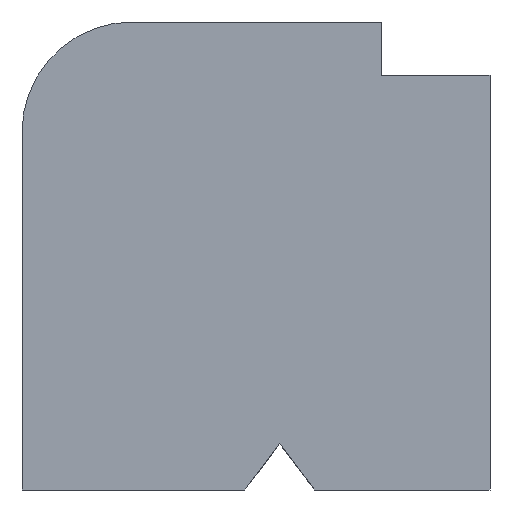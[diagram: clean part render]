
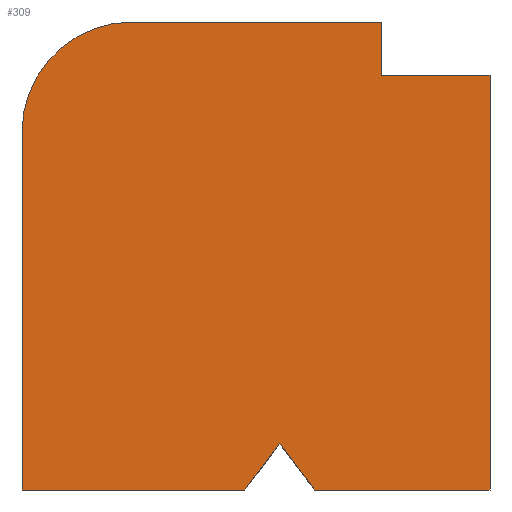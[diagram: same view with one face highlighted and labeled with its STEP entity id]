
A CAD part, front view. The second image highlights one B-rep face of the part: STEP entity #309.
In plain terms, the highlighted planar face has unit normal (0, -1, 0).
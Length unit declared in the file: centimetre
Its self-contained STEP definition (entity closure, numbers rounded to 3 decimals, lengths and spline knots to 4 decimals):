
#11 = CARTESIAN_POINT ( 'NONE',  ( 0., 0., 1000. ) ) ;
#12 = ORIENTED_EDGE ( 'NONE', *, *, #33, .T. ) ;
#18 = VERTEX_POINT ( 'NONE', #925 ) ;
#33 = EDGE_CURVE ( 'NONE', #777, #708, #668, .T. ) ;
#39 = CARTESIAN_POINT ( 'NONE',  ( 1000., 0., 1000. ) ) ;
#45 = DIRECTION ( 'NONE',  ( 0., 0., 1. ) ) ;
#97 = VERTEX_POINT ( 'NONE', #953 ) ;
#109 = ORIENTED_EDGE ( 'NONE', *, *, #954, .F. ) ;
#113 = DIRECTION ( 'NONE',  ( 0., 1., 0. ) ) ;
#122 = CARTESIAN_POINT ( 'NONE',  ( 0., 0., 0. ) ) ;
#142 = VERTEX_POINT ( 'NONE', #673 ) ;
#160 = CARTESIAN_POINT ( 'NONE',  ( 1000., 0., 0. ) ) ;
#180 = VECTOR ( 'NONE', #1120, 100. ) ;
#184 = CARTESIAN_POINT ( 'NONE',  ( 235.263, 0., 1000. ) ) ;
#188 = FACE_OUTER_BOUND ( 'NONE', #713, .T. ) ;
#205 = LINE ( 'NONE', #795, #769 ) ;
#224 = LINE ( 'NONE', #122, #915 ) ;
#233 = CARTESIAN_POINT ( 'NONE',  ( 550.7405, 0., 98.8869 ) ) ;
#261 = CARTESIAN_POINT ( 'NONE',  ( 550.7405, 0., 98.8869 ) ) ;
#267 = DIRECTION ( 'NONE',  ( 1., 0., 0. ) ) ;
#281 = ORIENTED_EDGE ( 'NONE', *, *, #1063, .F. ) ;
#286 = EDGE_CURVE ( 'NONE', #803, #97, #712, .T. ) ;
#298 = LINE ( 'NONE', #737, #383 ) ;
#309 = ADVANCED_FACE ( 'NONE', ( #188 ), #982, .F. ) ;
#312 = VECTOR ( 'NONE', #611, 100. ) ;
#325 = VERTEX_POINT ( 'NONE', #439 ) ;
#363 = DIRECTION ( 'NONE',  ( 0., 0., 1. ) ) ;
#364 = ORIENTED_EDGE ( 'NONE', *, *, #566, .T. ) ;
#367 = VECTOR ( 'NONE', #998, 100. ) ;
#383 = VECTOR ( 'NONE', #267, 100. ) ;
#395 = EDGE_CURVE ( 'NONE', #18, #97, #224, .T. ) ;
#404 = VECTOR ( 'NONE', #977, 100. ) ;
#432 = EDGE_CURVE ( 'NONE', #777, #993, #473, .T. ) ;
#439 = CARTESIAN_POINT ( 'NONE',  ( 0., 0., 764.737 ) ) ;
#446 = EDGE_CURVE ( 'NONE', #708, #610, #1082, .T. ) ;
#473 = LINE ( 'NONE', #39, #1116 ) ;
#494 = ORIENTED_EDGE ( 'NONE', *, *, #446, .T. ) ;
#497 = AXIS2_PLACEMENT_3D ( 'NONE', #1104, #762, #1025 ) ;
#566 = EDGE_CURVE ( 'NONE', #746, #325, #936, .T. ) ;
#572 = CARTESIAN_POINT ( 'NONE',  ( 768.9327, 0., 886.3765 ) ) ;
#610 = VERTEX_POINT ( 'NONE', #1110 ) ;
#611 = DIRECTION ( 'NONE',  ( -0.602, 0., 0.799 ) ) ;
#613 = CARTESIAN_POINT ( 'NONE',  ( 1000., 0., 886.3765 ) ) ;
#628 = ORIENTED_EDGE ( 'NONE', *, *, #286, .F. ) ;
#648 = CARTESIAN_POINT ( 'NONE',  ( 768.9327, 0., 886.3765 ) ) ;
#668 = LINE ( 'NONE', #572, #367 ) ;
#673 = CARTESIAN_POINT ( 'NONE',  ( 625.2266, 0., 0. ) ) ;
#695 = EDGE_CURVE ( 'NONE', #142, #993, #298, .T. ) ;
#699 = LINE ( 'NONE', #261, #312 ) ;
#708 = VERTEX_POINT ( 'NONE', #648 ) ;
#712 = LINE ( 'NONE', #796, #404 ) ;
#713 = EDGE_LOOP ( 'NONE', ( #909, #628, #281, #1052, #794, #12, #494, #109, #364, #1065 ) ) ;
#737 = CARTESIAN_POINT ( 'NONE',  ( 0., 0., 0. ) ) ;
#746 = VERTEX_POINT ( 'NONE', #184 ) ;
#762 = DIRECTION ( 'NONE',  ( 0., -1., 0. ) ) ;
#769 = VECTOR ( 'NONE', #904, 100. ) ;
#770 = VECTOR ( 'NONE', #45, 100. ) ;
#777 = VERTEX_POINT ( 'NONE', #613 ) ;
#784 = EDGE_CURVE ( 'NONE', #325, #18, #205, .T. ) ;
#794 = ORIENTED_EDGE ( 'NONE', *, *, #432, .F. ) ;
#795 = CARTESIAN_POINT ( 'NONE',  ( 0., 0., 1000. ) ) ;
#796 = CARTESIAN_POINT ( 'NONE',  ( 476.2543, 0., 0. ) ) ;
#803 = VERTEX_POINT ( 'NONE', #233 ) ;
#817 = CARTESIAN_POINT ( 'NONE',  ( 768.9327, 0., 886.3765 ) ) ;
#821 = AXIS2_PLACEMENT_3D ( 'NONE', #11, #113, #363 ) ;
#835 = DIRECTION ( 'NONE',  ( 1., 0., 0. ) ) ;
#904 = DIRECTION ( 'NONE',  ( 0., 0., -1. ) ) ;
#909 = ORIENTED_EDGE ( 'NONE', *, *, #395, .T. ) ;
#912 = DIRECTION ( 'NONE',  ( 0., 0., -1. ) ) ;
#915 = VECTOR ( 'NONE', #835, 100. ) ;
#925 = CARTESIAN_POINT ( 'NONE',  ( 0., 0., 0. ) ) ;
#936 = CIRCLE ( 'NONE', #497, 235.263 ) ;
#946 = CARTESIAN_POINT ( 'NONE',  ( 0., 0., 1000. ) ) ;
#953 = CARTESIAN_POINT ( 'NONE',  ( 476.2543, 0., 0. ) ) ;
#954 = EDGE_CURVE ( 'NONE', #746, #610, #1045, .T. ) ;
#977 = DIRECTION ( 'NONE',  ( -0.602, 0., -0.799 ) ) ;
#982 = PLANE ( 'NONE',  #821 ) ;
#993 = VERTEX_POINT ( 'NONE', #160 ) ;
#998 = DIRECTION ( 'NONE',  ( -1., 0., 0. ) ) ;
#1025 = DIRECTION ( 'NONE',  ( 0., 0., 1. ) ) ;
#1045 = LINE ( 'NONE', #946, #180 ) ;
#1052 = ORIENTED_EDGE ( 'NONE', *, *, #695, .T. ) ;
#1063 = EDGE_CURVE ( 'NONE', #142, #803, #699, .T. ) ;
#1065 = ORIENTED_EDGE ( 'NONE', *, *, #784, .T. ) ;
#1082 = LINE ( 'NONE', #817, #770 ) ;
#1104 = CARTESIAN_POINT ( 'NONE',  ( 235.263, 0., 764.737 ) ) ;
#1110 = CARTESIAN_POINT ( 'NONE',  ( 768.9327, 0., 1000. ) ) ;
#1116 = VECTOR ( 'NONE', #912, 100. ) ;
#1120 = DIRECTION ( 'NONE',  ( 1., 0., 0. ) ) ;
